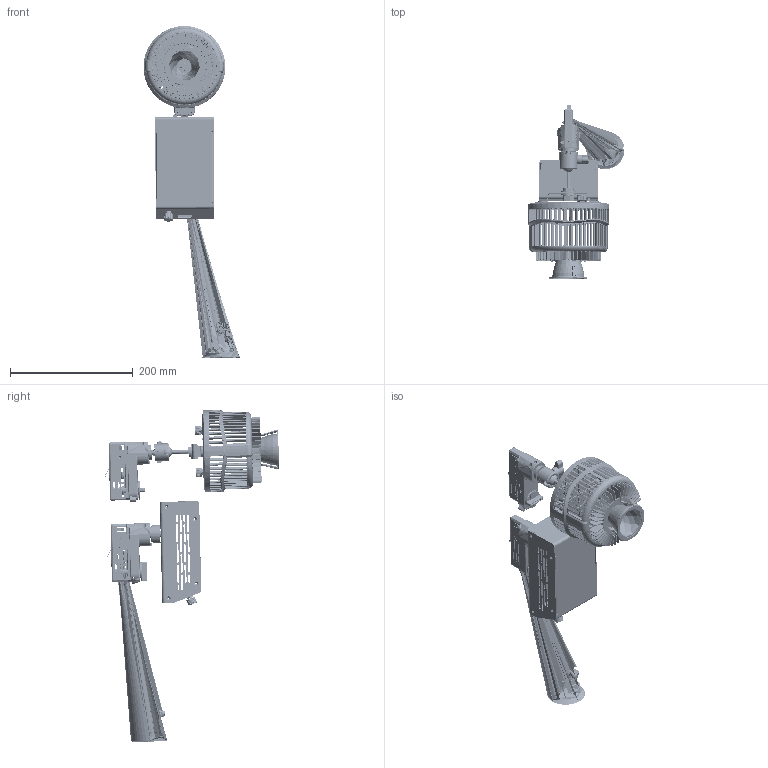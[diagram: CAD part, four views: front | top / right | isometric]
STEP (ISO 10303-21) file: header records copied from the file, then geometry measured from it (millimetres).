
FILE_DESCRIPTION (( 'STEP AP214' ), '1' );
FILE_NAME ('W500N-TOX-PSX.STEP', '2024-02-01T23:04:14', ( '' ), ( '' ), 'SwSTEP 2.0', 'SolidWorks 2022', '' );
FILE_SCHEMA (( 'AUTOMOTIVE_DESIGN' ));
Length unit declared in the file: millimetre
Products named in the file (39): 5120522-XXX_A4_Assembly BOM, W360&W500 Light Mounting Type_TG; 5022770-XXX_A1_RETAINING COLLAR M10P1.0 FOR ONETRACK POWER BOX OD30x29.8mm___; UL004___; 5022432-XXX_A2_250W Power Box Cover (TEX-PSX TYPE), 165x92x62.5(H)mm___; 5022771-XXX_A1_RETAINING M10P1.5 FOR ONETRACK LIGHT SIDE OD25x19.8mm___; 5022453-XXX_A1_35D Sink Holder B, 71.2x62.2x31.1(H)mm___; 5022398-XXX_A1_Plug for W Series, 19x10x9.4mm_-002(Black); Track Adapter-120V 2Circuits (??)___; 62282-5014005_ _Standard Types of Metric Set Screws, M4xL5, Black___; 5120529-XXX_A1_Assembly BOM, W500 Light Engine_Finish; UL008___; 5120539-XXX_A1_Housing, OD=133, ID=121, T=78.1mm, For Reflector, Without Logo___; 5021926-XXX_A2_KNOB, 18T, OD=14.9, ID=6, L=10MM_C1; 5120540-XXX_A1_Rear Panel, OD=133, T=13.65mm, W-Series_5120531-001 W500; 5010177-XXX_A2_Assembly BOM, Kessil W500_55D-BD-[TEX]; UL010___; UL006___; 5022427-XXX_A4_250W Power Box FRAME (TG&TEX&CLP TYPE), 165x95x64mm___; 5022452-003_A3_Reflector Sink Holder, D108x14.35(H)mm (-004 is White)_-003(Black); 5022708-XXX_A2_Ball Joint Axis, L=65.8mm___; 5022189_A1_Plate, OD=48, ID=23, T=2.0mm___; UL003___; 5120519-XXX_A3_Assembly BOM, Kessil W500 Power Box_TON(US)-PS; 5022445-XXX_A1_DC Plug for W Series, D=12mm_-002(Black); 5022405-XXX_A1_Wing Knob Screws, M6xL8.0mm_-001; 62280-1343006_ _SCREW, PAN HEAD TROX W-THD LOCK, SUS-410, BLACK, M3xL6mm___; 5022431-XXX_A1_Ball Joint Part A, L=23.7mm___; C007___; 5020897-2010216520_ _Helical Spring Washer Customized___; 5021416_A1_Hex Nut, M10xP1.5, T8 SUS___; 5047592-XXX_A2_A.A.G. STUCCHI-Adapter for ONE Track Series(6 Conductors), for US___; 5060069-XXX_A2_W series Reflector-35, OD=62, H=45mm___; 5022693-XXX_A1_Bracket, 98.85x25x17.5, T=2.5mm___; 5020757-001_A1_VR Nut, Kessil A360 Aquarium Light___; UL002___; 5020893-2010525020_ _Flat Washer, M10, ID10.5 OD25.0, T2 SUS 304___; W500N-TOX-PSX; 5120530-XXX_A1_Assembly BOM, W500 Reflector Type_Reflector - 55D-BD; 5020757-002_A2_VR Washer, Kessil A360 Aquarium Light___
Assembly tree (46 placements, depth 5):
  W500N-TOX-PSX
    5120519-XXX_A3_Assembly BOM, Kessil W500 Power Box_TON(US)-PS
      5022427-XXX_A4_250W Power Box FRAME (TG&TEX&CLP TYPE), 165x95x64mm___
      5022770-XXX_A1_RETAINING COLLAR M10P1.0 FOR ONETRACK POWER BOX OD30x29.8mm___
      5047592-XXX_A2_A.A.G. STUCCHI-Adapter for ONE Track Series(6 Conductors), for US___
      5022432-XXX_A2_250W Power Box Cover (TEX-PSX TYPE), 165x92x62.5(H)mm___
      5020757-002_A2_VR Washer, Kessil A360 Aquarium Light___
      5020757-001_A1_VR Nut, Kessil A360 Aquarium Light___
      5021926-XXX_A2_KNOB, 18T, OD=14.9, ID=6, L=10MM_C1
    5010177-XXX_A2_Assembly BOM, Kessil W500_55D-BD-[TEX]
      5120529-XXX_A1_Assembly BOM, W500 Light Engine_Finish
        5120540-XXX_A1_Rear Panel, OD=133, T=13.65mm, W-Series_5120531-001 W500
        5022398-XXX_A1_Plug for W Series, 19x10x9.4mm_-002(Black)
        5022445-XXX_A1_DC Plug for W Series, D=12mm_-002(Black)
        5020757-002_A2_VR Washer, Kessil A360 Aquarium Light___  x2
        5020757-001_A1_VR Nut, Kessil A360 Aquarium Light___  x2
        5021926-XXX_A2_KNOB, 18T, OD=14.9, ID=6, L=10MM_C1  x2
      5120530-XXX_A1_Assembly BOM, W500 Reflector Type_Reflector - 55D-BD
        5120539-XXX_A1_Housing, OD=133, ID=121, T=78.1mm, For Reflector, Without Logo___
        5022189_A1_Plate, OD=48, ID=23, T=2.0mm___
        62280-1343006_ _SCREW, PAN HEAD TROX W-THD LOCK, SUS-410, BLACK, M3xL6mm___  x2
        5022452-003_A3_Reflector Sink Holder, D108x14.35(H)mm (-004 is White)_-003(Black)
        5022453-XXX_A1_35D Sink Holder B, 71.2x62.2x31.1(H)mm___
        5060069-XXX_A2_W series Reflector-35, OD=62, H=45mm___
      5120522-XXX_A4_Assembly BOM, W360&W500 Light Mounting Type_TG
        5022431-XXX_A1_Ball Joint Part A, L=23.7mm___
        5022708-XXX_A2_Ball Joint Axis, L=65.8mm___
        62282-5014005_ _Standard Types of Metric Set Screws, M4xL5, Black___
        5022405-XXX_A1_Wing Knob Screws, M6xL8.0mm_-001
        5022693-XXX_A1_Bracket, 98.85x25x17.5, T=2.5mm___
        5022771-XXX_A1_RETAINING M10P1.5 FOR ONETRACK LIGHT SIDE OD25x19.8mm___
        Track Adapter-120V 2Circuits (??)___
          UL002___
          UL003___
          UL008___
          UL010___
          UL006___
          C007___
          UL004___
        5020893-2010525020_ _Flat Washer, M10, ID10.5 OD25.0, T2 SUS 304___  x2
        5020897-2010216520_ _Helical Spring Washer Customized___
        5021416_A1_Hex Nut, M10xP1.5, T8 SUS___
Bounding box: 157.74 x 283.32 x 540.38 mm (x, y, z)
Volume: 320080.1 mm3; surface area: 550422.1 mm2
Topology: 38 solids, 75 shells, 17328 faces, 47566 edges, 30403 vertices
Faces by surface type: plane 8581, cylinder 4790, bspline 2752, cone 745, torus 444, sphere 16
Entity records: 838731 total; most frequent: CARTESIAN_POINT 396007, ORIENTED_EDGE 89351, DIRECTION 67288, EDGE_CURVE 45030, VERTEX_POINT 28736, LINE 23738, VECTOR 23738, AXIS2_PLACEMENT_3D 21775
